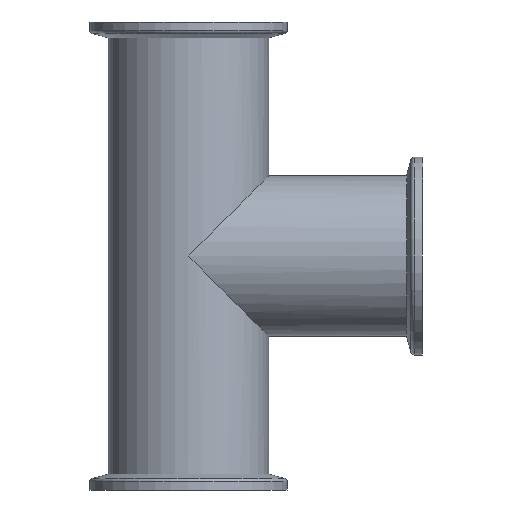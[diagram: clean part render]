
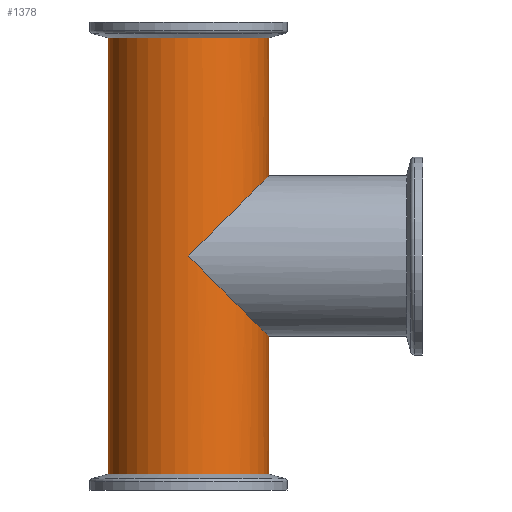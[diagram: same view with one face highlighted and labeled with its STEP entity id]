
A CAD part, front view. The second image highlights one B-rep face of the part: STEP entity #1378.
In plain terms, the highlighted cylindrical face has radius 22.25 mm (diameter 44.5 mm), a partial arc.
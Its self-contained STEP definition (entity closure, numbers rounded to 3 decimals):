
#6 = VERTEX_POINT ( 'NONE', #1424 ) ;
#44 = EDGE_CURVE ( 'NONE', #1239, #94, #481, .T. ) ;
#63 = DIRECTION ( 'NONE',  ( 0., 0., 1. ) ) ;
#79 = CARTESIAN_POINT ( 'NONE',  ( 13.034, -22.25, -51.966 ) ) ;
#81 = CARTESIAN_POINT ( 'NONE',  ( 22.25, 0., -87.25 ) ) ;
#90 = CARTESIAN_POINT ( 'NONE',  ( 22.25, 0., -42.75 ) ) ;
#94 = VERTEX_POINT ( 'NONE', #364 ) ;
#109 = DIRECTION ( 'NONE',  ( 0., 0., 1. ) ) ;
#112 = DIRECTION ( 'NONE',  ( 0., 0., 1. ) ) ;
#115 = VERTEX_POINT ( 'NONE', #1741 ) ;
#140 = VERTEX_POINT ( 'NONE', #1274 ) ;
#175 = EDGE_CURVE ( 'NONE', #94, #535, #1413, .T. ) ;
#207 = ORIENTED_EDGE ( 'NONE', *, *, #175, .T. ) ;
#240 = CARTESIAN_POINT ( 'NONE',  ( 0., 0., -126.5 ) ) ;
#269 = CARTESIAN_POINT ( 'NONE',  ( -22.25, 0., -189.433 ) ) ;
#302 = AXIS2_PLACEMENT_3D ( 'NONE', #240, #109, #1772 ) ;
#307 = EDGE_CURVE ( 'NONE', #6, #140, #1711, .T. ) ;
#361 = CARTESIAN_POINT ( 'NONE',  ( 13.034, -22.25, -78.034 ) ) ;
#364 = CARTESIAN_POINT ( 'NONE',  ( 0., -22.25, -65. ) ) ;
#425 = VECTOR ( 'NONE', #63, 1000. ) ;
#463 = EDGE_CURVE ( 'NONE', #1150, #115, #1346, .T. ) ;
#467 = AXIS2_PLACEMENT_3D ( 'NONE', #1773, #112, #1111 ) ;
#475 = LINE ( 'NONE', #1428, #425 ) ;
#481 =( BOUNDED_CURVE ( )  B_SPLINE_CURVE ( 3, ( #81, #1053, #361, #753 ),
 .UNSPECIFIED., .F., .T. ) 
 B_SPLINE_CURVE_WITH_KNOTS ( ( 4, 4 ),
 ( 3.142, 4.712 ),
 .UNSPECIFIED. ) 
 CURVE ( )  GEOMETRIC_REPRESENTATION_ITEM ( )  RATIONAL_B_SPLINE_CURVE ( ( 1., 0.805, 0.805, 1. ) ) 
 REPRESENTATION_ITEM ( '' )  );
#492 = CARTESIAN_POINT ( 'NONE',  ( 22.25, 0., -42.75 ) ) ;
#530 = ORIENTED_EDGE ( 'NONE', *, *, #1323, .T. ) ;
#535 = VERTEX_POINT ( 'NONE', #90 ) ;
#591 = VECTOR ( 'NONE', #836, 1000. ) ;
#646 = LINE ( 'NONE', #1482, #1651 ) ;
#708 = AXIS2_PLACEMENT_3D ( 'NONE', #979, #1688, #1798 ) ;
#753 = CARTESIAN_POINT ( 'NONE',  ( 0., -22.25, -65. ) ) ;
#754 = LINE ( 'NONE', #269, #591 ) ;
#803 = ORIENTED_EDGE ( 'NONE', *, *, #1769, .F. ) ;
#836 = DIRECTION ( 'NONE',  ( 0., 0., 1. ) ) ;
#913 = ORIENTED_EDGE ( 'NONE', *, *, #307, .T. ) ;
#923 = ORIENTED_EDGE ( 'NONE', *, *, #1800, .T. ) ;
#952 = CARTESIAN_POINT ( 'NONE',  ( -22.25, 0., -126.5 ) ) ;
#979 = CARTESIAN_POINT ( 'NONE',  ( 0., 0., -3.5 ) ) ;
#1025 = ORIENTED_EDGE ( 'NONE', *, *, #463, .T. ) ;
#1026 = FACE_OUTER_BOUND ( 'NONE', #1384, .T. ) ;
#1035 = CARTESIAN_POINT ( 'NONE',  ( 22.25, -13.034, -42.75 ) ) ;
#1040 = CARTESIAN_POINT ( 'NONE',  ( 0., -22.25, -65. ) ) ;
#1053 = CARTESIAN_POINT ( 'NONE',  ( 22.25, -13.034, -87.25 ) ) ;
#1111 = DIRECTION ( 'NONE',  ( 1., 0., 0. ) ) ;
#1150 = VERTEX_POINT ( 'NONE', #952 ) ;
#1197 = CYLINDRICAL_SURFACE ( 'NONE', #467, 22.25 ) ;
#1213 = DIRECTION ( 'NONE',  ( 0., 0., 1. ) ) ;
#1239 = VERTEX_POINT ( 'NONE', #1269 ) ;
#1269 = CARTESIAN_POINT ( 'NONE',  ( 22.25, 0., -87.25 ) ) ;
#1274 = CARTESIAN_POINT ( 'NONE',  ( -22.25, 0., -3.5 ) ) ;
#1323 = EDGE_CURVE ( 'NONE', #115, #1239, #646, .T. ) ;
#1346 = CIRCLE ( 'NONE', #302, 22.25 ) ;
#1378 = ADVANCED_FACE ( 'NONE', ( #1026 ), #1197, .T. ) ;
#1384 = EDGE_LOOP ( 'NONE', ( #803, #1025, #530, #1426, #207, #923, #913 ) ) ;
#1413 =( BOUNDED_CURVE ( )  B_SPLINE_CURVE ( 3, ( #1040, #79, #1035, #492 ),
 .UNSPECIFIED., .F., .F. ) 
 B_SPLINE_CURVE_WITH_KNOTS ( ( 4, 4 ),
 ( 4.712, 6.283 ),
 .UNSPECIFIED. ) 
 CURVE ( )  GEOMETRIC_REPRESENTATION_ITEM ( )  RATIONAL_B_SPLINE_CURVE ( ( 1., 0.805, 0.805, 1. ) ) 
 REPRESENTATION_ITEM ( '' )  );
#1424 = CARTESIAN_POINT ( 'NONE',  ( 22.25, 0., -3.5 ) ) ;
#1426 = ORIENTED_EDGE ( 'NONE', *, *, #44, .T. ) ;
#1428 = CARTESIAN_POINT ( 'NONE',  ( 22.25, 0., -189.433 ) ) ;
#1482 = CARTESIAN_POINT ( 'NONE',  ( 22.25, 0., -189.433 ) ) ;
#1651 = VECTOR ( 'NONE', #1213, 1000. ) ;
#1688 = DIRECTION ( 'NONE',  ( 0., 0., -1. ) ) ;
#1711 = CIRCLE ( 'NONE', #708, 22.25 ) ;
#1741 = CARTESIAN_POINT ( 'NONE',  ( 22.25, 0., -126.5 ) ) ;
#1769 = EDGE_CURVE ( 'NONE', #1150, #140, #754, .T. ) ;
#1772 = DIRECTION ( 'NONE',  ( 1., 0., 0. ) ) ;
#1773 = CARTESIAN_POINT ( 'NONE',  ( 0., 0., -189.433 ) ) ;
#1798 = DIRECTION ( 'NONE',  ( -1., 0., 0. ) ) ;
#1800 = EDGE_CURVE ( 'NONE', #535, #6, #475, .T. ) ;
